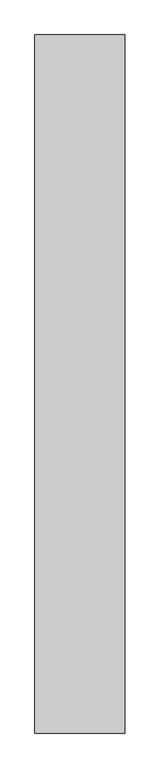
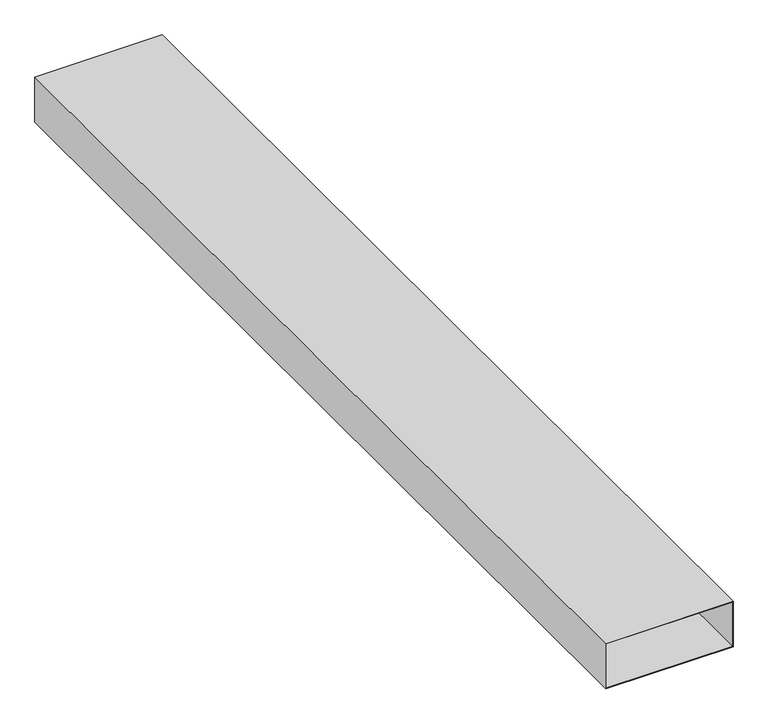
"""IFC4 building model written with IfcOpenShell, lengths in millimetres: furniture geometry, Ducto Metalico para Instalaciones : Cenefa Metalica Ductos 15cm profundidad."""

from ifc_helpers import new_model, si_unit, frame, origin, place, context, project, spatial, polyline, outline, extrude, source, transform, mapped, element, save


def furniture_32bd7863(model_context):
    return source(origin(), model_context, "Body", "SweptSolid", [
        extrude(outline(polyline([(150.0, -200.0), (0.0, -200.0), (0.0, 200.0), (150.0, 200.0), (150.0, -200.0)]), holes=[polyline([(148.0, 198.0), (2.0, 198.0), (2.0, -198.0), (148.0, -198.0), (148.0, 198.0)])]), frame((0.0, 0.0, 0.0), z_axis=(0.0, 1.0, 0.0), x_axis=(0.0, 0.0, 1.0)), (0.0, 0.0, 1.0), 3100.0),
    ])


if __name__ == "__main__":
    model = new_model("IFC4")
    model_context = context("Model", 3, world=origin())
    ifc_project = project(units=[si_unit("LENGTHUNIT", "METRE", prefix="MILLI")], contexts=[model_context])
    site = spatial("IfcSite", under=ifc_project)
    building = spatial("IfcBuilding", under=site)
    placement = place(None, origin())
    furniture_shape = furniture_32bd7863(model_context)
    element("IfcFurniture", 1, ObjectType="Ducto Metalico para Instalaciones : Cenefa Metalica Ductos 15cm profundidad", at=placement, inside=building, context=model_context, shape_type="MappedRepresentation", body=[
        mapped(furniture_shape, transform((0.0, 0.0, 0.0), x_axis=(1.0, 0.0, 0.0), y_axis=(0.0, 1.0, 0.0), z_axis=(0.0, 0.0, 1.0))),
    ])
    save(model, "model.ifc")
